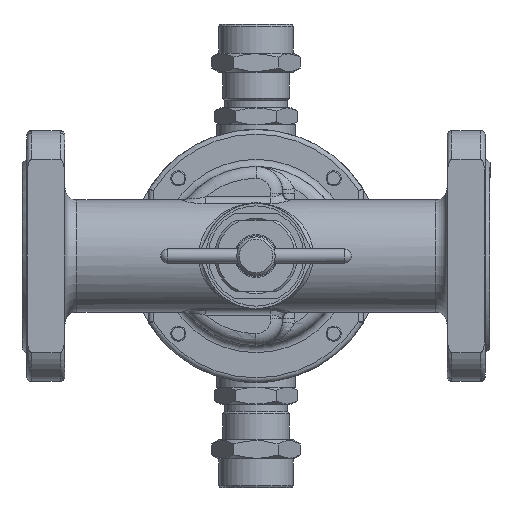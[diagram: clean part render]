
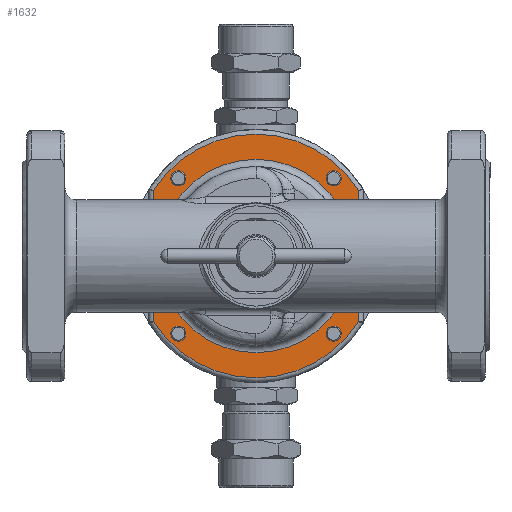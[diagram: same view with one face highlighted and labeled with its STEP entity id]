
A CAD part, front view. The second image highlights one B-rep face of the part: STEP entity #1632.
In plain terms, the highlighted planar face has unit normal (0, -1, 0).
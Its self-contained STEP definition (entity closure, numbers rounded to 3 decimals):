
#1632=ADVANCED_FACE('',(#17181,#17183,#17185,#17187,#17189,#17191),#17193,.F.);
#17181=FACE_BOUND('',#17182,.T.);
#17182=EDGE_LOOP('',(#29763));
#17183=FACE_BOUND('',#17184,.T.);
#17184=EDGE_LOOP('',(#29764));
#17185=FACE_BOUND('',#17186,.T.);
#17186=EDGE_LOOP('',(#29765));
#17187=FACE_BOUND('',#17188,.T.);
#17188=EDGE_LOOP('',(#29766));
#17189=FACE_BOUND('',#17190,.T.);
#17190=EDGE_LOOP('',(#29767));
#17191=FACE_OUTER_BOUND('',#17192,.T.);
#17192=EDGE_LOOP('',(#29768,#29769,#29770,#29771));
#17193=PLANE('',#17194);
#17194=AXIS2_PLACEMENT_3D('',#17195,#17196,#17197);
#17195=CARTESIAN_POINT('',(0.,30.,0.));
#17196=DIRECTION('',(0.,1.,0.));
#17197=DIRECTION('',(-1.,0.,0.));
#29763=ORIENTED_EDGE('',*,*,#37552,.F.);
#29764=ORIENTED_EDGE('',*,*,#37553,.T.);
#29765=ORIENTED_EDGE('',*,*,#37554,.T.);
#29766=ORIENTED_EDGE('',*,*,#37555,.T.);
#29767=ORIENTED_EDGE('',*,*,#37556,.T.);
#29768=ORIENTED_EDGE('',*,*,#37516,.F.);
#29769=ORIENTED_EDGE('',*,*,#37524,.F.);
#29770=ORIENTED_EDGE('',*,*,#37521,.F.);
#29771=ORIENTED_EDGE('',*,*,#37519,.F.);
#37516=EDGE_CURVE('',#45131,#45133,#45134,.T.);
#37519=EDGE_CURVE('',#45133,#45137,#45138,.T.);
#37521=EDGE_CURVE('',#45137,#45140,#45141,.T.);
#37524=EDGE_CURVE('',#45140,#45131,#45144,.T.);
#37552=EDGE_CURVE('',#45178,#45178,#45179,.T.);
#37553=EDGE_CURVE('',#45180,#45180,#45181,.T.);
#37554=EDGE_CURVE('',#45182,#45182,#45183,.T.);
#37555=EDGE_CURVE('',#45184,#45184,#45185,.T.);
#37556=EDGE_CURVE('',#45186,#45186,#45187,.T.);
#45131=VERTEX_POINT('',#69024);
#45133=VERTEX_POINT('',#69039);
#45134=CIRCLE('',#69040,51.);
#45137=VERTEX_POINT('',#69072);
#45138=LINE('',#69073,#69074);
#45140=VERTEX_POINT('',#69095);
#45141=CIRCLE('',#69096,51.);
#45144=LINE('',#69133,#69134);
#45178=VERTEX_POINT('',#69247);
#45179=CIRCLE('',#69248,40.5);
#45180=VERTEX_POINT('',#69252);
#45181=CIRCLE('',#69253,3.15);
#45182=VERTEX_POINT('',#69257);
#45183=CIRCLE('',#69258,3.15);
#45184=VERTEX_POINT('',#69262);
#45185=CIRCLE('',#69263,3.15);
#45186=VERTEX_POINT('',#69267);
#45187=CIRCLE('',#69268,3.15);
#69024=CARTESIAN_POINT('',(43.,30.,-27.423));
#69039=CARTESIAN_POINT('',(-43.,30.,-27.423));
#69040=AXIS2_PLACEMENT_3D('',#69041,#69042,#69043);
#69041=CARTESIAN_POINT('',(0.,30.,0.));
#69042=DIRECTION('',(0.,1.,0.));
#69043=DIRECTION('',(0.843,0.,-0.538));
#69072=CARTESIAN_POINT('',(-43.,30.,27.423));
#69073=CARTESIAN_POINT('',(-43.,30.,-27.423));
#69074=VECTOR('',#69075,1.);
#69075=DIRECTION('',(0.,0.,1.));
#69095=CARTESIAN_POINT('',(43.,30.,27.423));
#69096=AXIS2_PLACEMENT_3D('',#69097,#69098,#69099);
#69097=CARTESIAN_POINT('',(0.,30.,0.));
#69098=DIRECTION('',(0.,1.,0.));
#69099=DIRECTION('',(-0.843,0.,0.538));
#69133=CARTESIAN_POINT('',(43.,30.,27.423));
#69134=VECTOR('',#69135,1.);
#69135=DIRECTION('',(0.,0.,-1.));
#69247=CARTESIAN_POINT('',(-40.5,30.,0.));
#69248=AXIS2_PLACEMENT_3D('',#69249,#69250,#69251);
#69249=CARTESIAN_POINT('',(0.,30.,0.));
#69250=DIRECTION('',(0.,-1.,0.));
#69251=DIRECTION('',(-1.,0.,0.));
#69252=CARTESIAN_POINT('',(-35.677,30.,-32.527));
#69253=AXIS2_PLACEMENT_3D('',#69254,#69255,#69256);
#69254=CARTESIAN_POINT('',(-32.527,30.,-32.527));
#69255=DIRECTION('',(0.,1.,0.));
#69256=DIRECTION('',(-1.,0.,0.));
#69257=CARTESIAN_POINT('',(29.377,30.,-32.527));
#69258=AXIS2_PLACEMENT_3D('',#69259,#69260,#69261);
#69259=CARTESIAN_POINT('',(32.527,30.,-32.527));
#69260=DIRECTION('',(0.,1.,0.));
#69261=DIRECTION('',(-1.,0.,0.));
#69262=CARTESIAN_POINT('',(29.377,30.,32.527));
#69263=AXIS2_PLACEMENT_3D('',#69264,#69265,#69266);
#69264=CARTESIAN_POINT('',(32.527,30.,32.527));
#69265=DIRECTION('',(0.,1.,0.));
#69266=DIRECTION('',(-1.,0.,0.));
#69267=CARTESIAN_POINT('',(-35.677,30.,32.527));
#69268=AXIS2_PLACEMENT_3D('',#69269,#69270,#69271);
#69269=CARTESIAN_POINT('',(-32.527,30.,32.527));
#69270=DIRECTION('',(0.,1.,0.));
#69271=DIRECTION('',(-1.,0.,0.));
